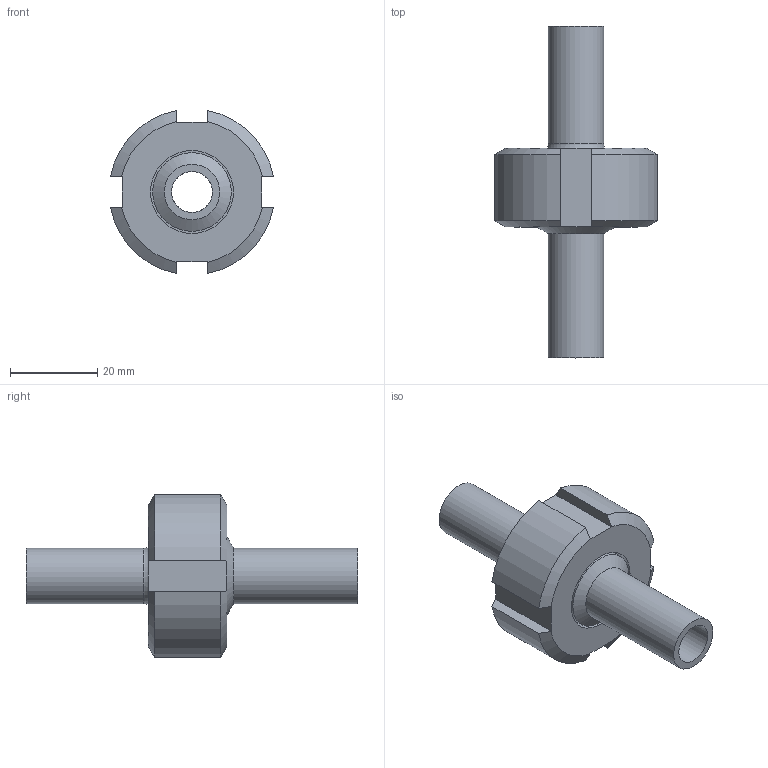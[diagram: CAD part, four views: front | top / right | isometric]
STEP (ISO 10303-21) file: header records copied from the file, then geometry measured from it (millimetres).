
FILE_DESCRIPTION(/* description */ ('Aseptik_Rohrverbindung_DIN 11864-1-A_12,7x1,65_L76'),/* implementation_level */ '2;1');
FILE_NAME(/* name */ 'L:\Normteile\N0024 - Rohrverbindungen\N0024_002 - DIN11864\N0024_002_001 - geschraubt\N0024_002_001\Step Marketing\DIN11864-1-A_12,7x1,65_L76.stp',/* time_stamp */ '2021-08-31T10:27:30+02:00',/* author */ ('Csasse'),/* organization */ ('Dockweiler AG'),/* preprocessor_version */ 'ST-DEVELOPER v18',/* originating_system */ 'Autodesk Inventor 2020',/* authorisation */ '');
FILE_SCHEMA (('AUTOMOTIVE_DESIGN { 1 0 10303 214 3 1 1 }'));
Length unit declared in the file: millimetre
Products named in the file (5): N0024_002_001_49; N0003_007_001_21; N0003_007_002_21; N0005_005_002_001_23; N0009_009
Assembly tree (4 placements, depth 2):
  N0024_002_001_49
    N0003_007_001_21
    N0003_007_002_21
    N0005_005_002_001_23
    N0009_009
Bounding box: 37.35 x 76 x 37.35 mm (x, y, z)
Volume: 21622.9 mm3; surface area: 13722.2 mm2
Topology: 4 solids, 4 shells, 66 faces, 192 edges, 138 vertices
Faces by surface type: plane 24, cone 16, cylinder 14, torus 12
Full cylindrical faces by diameter (mm): 9.4 x2, 12.7 x2, 18 x1, 19 x1, 21.9 x1, 22 x1, 24.825 x1, 28.318 x1
Entity records: 2538 total; most frequent: DIRECTION 444, CARTESIAN_POINT 437, ORIENTED_EDGE 384, AXIS2_PLACEMENT_3D 193, EDGE_CURVE 192, VERTEX_POINT 138, CIRCLE 118, EDGE_LOOP 78
